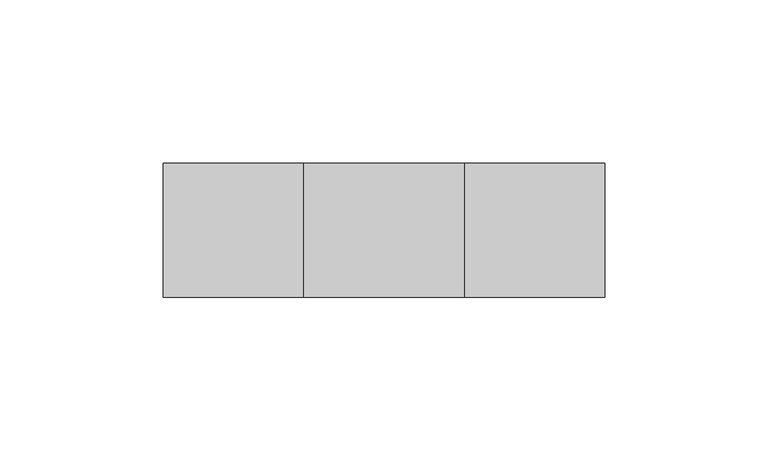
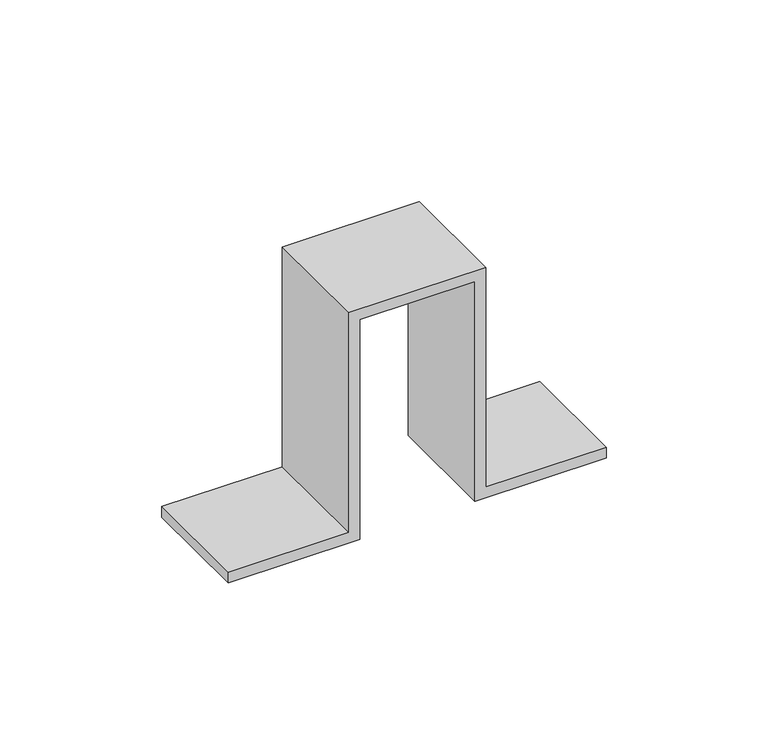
"""IFC4 building model written with IfcOpenShell, lengths in millimetres: proxy geometry, 4182F_Accessory-Basorfix : Basorfix 4182F GC70."""

from ifc_helpers import new_model, si_unit, frame, origin, place, context, project, spatial, polyline, outline, extrude, source, transform, mapped, element, save


def generic_models_a90f0e0e(model_context):
    return source(origin(), model_context, "Body", "SweptSolid", [
        extrude(outline(polyline([(0.0, 20.5060923), (0.0, 67.5060923), (4.0, 67.5060923), (4.0, 24.5060923), (87.0, 24.5060923), (87.0, -24.5060923), (4.0, -24.5060923), (4.0, -67.5060923), (0.0, -67.5060923), (0.0, -20.5060923), (83.0, -20.5060923), (83.0, 20.5060923), (0.0, 20.5060923)])), frame((0.0, -20.5, 0.0), z_axis=(0.0, 1.0, 0.0), x_axis=(0.0, 0.0, 1.0)), (0.0, 0.0, 1.0), 41.0),
    ])


if __name__ == "__main__":
    model = new_model("IFC4")
    model_context = context("Model", 3, world=origin())
    ifc_project = project(units=[si_unit("LENGTHUNIT", "METRE", prefix="MILLI")], contexts=[model_context])
    site = spatial("IfcSite", under=ifc_project)
    building = spatial("IfcBuilding", under=site)
    placement = place(None, origin())
    generic_models_shape = generic_models_a90f0e0e(model_context)
    element("IfcBuildingElementProxy", 1, Name="4182F_Accessory-Basorfix : Basorfix 4182F GC70", ObjectType="4182F_Accessory-Basorfix : Basorfix 4182F GC70", at=placement, inside=building, context=model_context, shape_type="MappedRepresentation", body=[
        mapped(generic_models_shape, transform((0.0, 0.0, 0.0), x_axis=(1.0, 0.0, 0.0), y_axis=(0.0, 1.0, 0.0), z_axis=(0.0, 0.0, 1.0))),
    ])
    save(model, "model.ifc")
